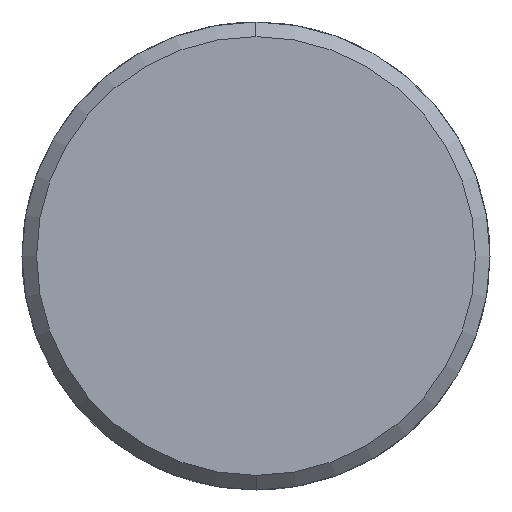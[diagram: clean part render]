
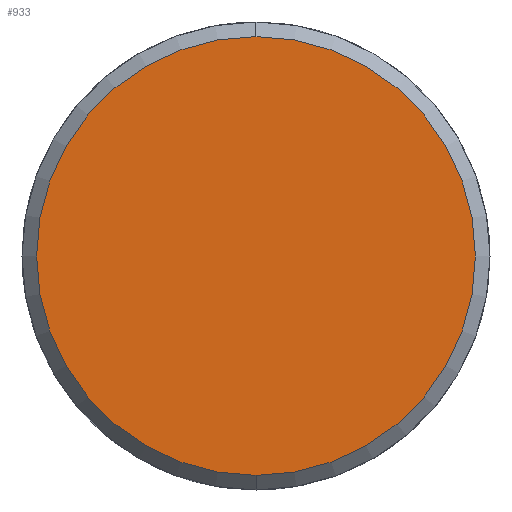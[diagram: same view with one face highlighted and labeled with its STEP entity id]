
A CAD part, left-side view. The second image highlights one B-rep face of the part: STEP entity #933.
In plain terms, the highlighted planar face has unit normal (-1, 0, 0).
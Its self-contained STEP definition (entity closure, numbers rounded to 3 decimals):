
#865=CARTESIAN_POINT('Vertex',(-6.,0.,-15.)) ;
#868=CARTESIAN_POINT('Axis2P3D Location',(-6.,0.,0.)) ;
#872=CARTESIAN_POINT('Vertex',(-6.,15.,0.)) ;
#875=CARTESIAN_POINT('Axis2P3D Location',(-6.,0.,0.)) ;
#879=CARTESIAN_POINT('Vertex',(-6.,0.,15.)) ;
#901=CARTESIAN_POINT('Axis2P3D Location',(-6.,0.,0.)) ;
#905=CARTESIAN_POINT('Vertex',(-6.,-15.,0.)) ;
#908=CARTESIAN_POINT('Axis2P3D Location',(-6.,0.,0.)) ;
#922=CARTESIAN_POINT('Axis2P3D Location',(-6.,0.,0.)) ;
#869=DIRECTION('Axis2P3D Direction',(1.,0.,-0.)) ;
#876=DIRECTION('Axis2P3D Direction',(1.,0.,-0.)) ;
#902=DIRECTION('Axis2P3D Direction',(1.,0.,-0.)) ;
#909=DIRECTION('Axis2P3D Direction',(1.,0.,-0.)) ;
#923=DIRECTION('Axis2P3D Direction',(1.,0.,-0.)) ;
#924=DIRECTION('Axis2P3D XDirection',(-0.,0.,-1.)) ;
#870=AXIS2_PLACEMENT_3D('Circle Axis2P3D',#868,#869,$) ;
#877=AXIS2_PLACEMENT_3D('Circle Axis2P3D',#875,#876,$) ;
#903=AXIS2_PLACEMENT_3D('Circle Axis2P3D',#901,#902,$) ;
#910=AXIS2_PLACEMENT_3D('Circle Axis2P3D',#908,#909,$) ;
#925=AXIS2_PLACEMENT_3D('Plane Axis2P3D',#922,#923,#924) ;
#928=ORIENTED_EDGE('',*,*,#874,.F.) ;
#929=ORIENTED_EDGE('',*,*,#912,.F.) ;
#930=ORIENTED_EDGE('',*,*,#907,.F.) ;
#931=ORIENTED_EDGE('',*,*,#881,.F.) ;
#933=ADVANCED_FACE('351-20X36X60',(#932),#926,.F.) ;
#871=CIRCLE('generated circle',#870,15.) ;
#878=CIRCLE('generated circle',#877,15.) ;
#904=CIRCLE('generated circle',#903,15.) ;
#911=CIRCLE('generated circle',#910,15.) ;
#874=EDGE_CURVE('',#866,#873,#871,.T.) ;
#881=EDGE_CURVE('',#873,#880,#878,.T.) ;
#907=EDGE_CURVE('',#880,#906,#904,.T.) ;
#912=EDGE_CURVE('',#906,#866,#911,.T.) ;
#927=EDGE_LOOP('',(#928,#929,#930,#931)) ;
#932=FACE_OUTER_BOUND('',#927,.T.) ;
#926=PLANE('Plane',#925) ;
#866=VERTEX_POINT('',#865) ;
#873=VERTEX_POINT('',#872) ;
#880=VERTEX_POINT('',#879) ;
#906=VERTEX_POINT('',#905) ;
